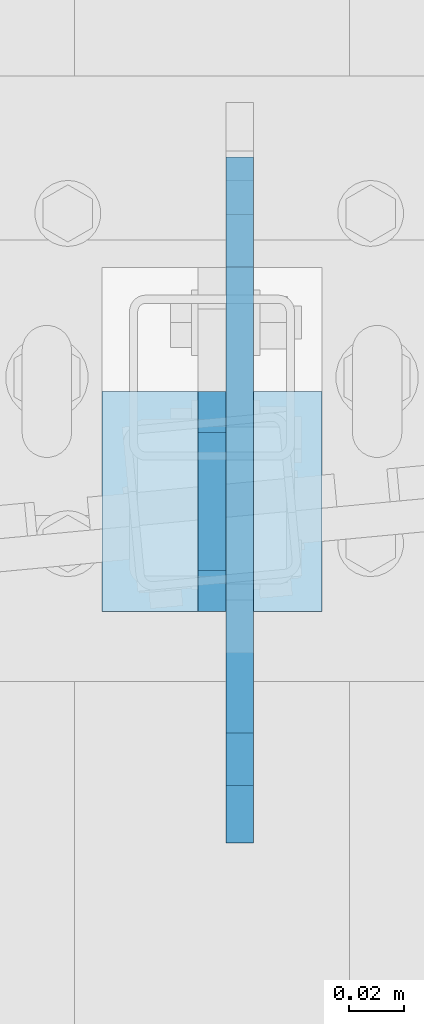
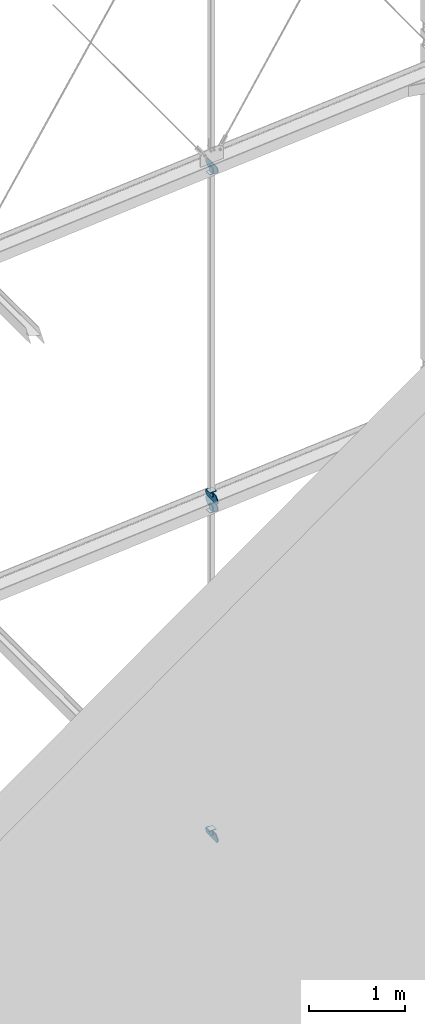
# One storey, part 183 of 271: 12 plates, 5 elements without a shape of their own.
"""IFC2X3 building model written with IfcOpenShell, lengths in millimetres."""

from ifc_helpers import new_model, si_unit, frame, origin_with_axes, place, context, subcontext, project, spatial, polyline, outline, extrude, material, type_object, element, aggregate, save


model = new_model("IFC2X3")

# Units and contexts
model_context = context("Model", 3, precision=1e-05, world=origin_with_axes())
body_context = subcontext(model_context, "Body", "Model", "MODEL_VIEW")
ifc_project = project(units=[si_unit("LENGTHUNIT", "METRE", prefix="MILLI"), si_unit("AREAUNIT", "SQUARE_METRE"), si_unit("VOLUMEUNIT", "CUBIC_METRE"), si_unit("MASSUNIT", "GRAM", prefix="KILO"), si_unit("TIMEUNIT", "SECOND"), si_unit("PLANEANGLEUNIT", "RADIAN"), si_unit("SOLIDANGLEUNIT", "STERADIAN"), si_unit("THERMODYNAMICTEMPERATUREUNIT", "DEGREE_CELSIUS"), si_unit("LUMINOUSINTENSITYUNIT", "LUMEN")], contexts=[model_context])

# Site, building, storey
site_placement = place(None, origin_with_axes())
site = spatial("IfcSite", under=ifc_project, at=site_placement, Name="Undefined", CompositionType="ELEMENT")
building_placement = place(site_placement, origin_with_axes())
building = spatial("IfcBuilding", under=site, at=building_placement, Name="Undefined", CompositionType="ELEMENT")
storey_placement = place(building_placement, origin_with_axes())
storey = spatial("IfcBuildingStorey", under=building, at=storey_placement, Name="Undefined", CompositionType="ELEMENT", Elevation=0.0)

# Assembly, plate
assembly_1_placement = place(storey_placement, origin_with_axes())
assembly_1 = element("IfcElementAssembly", 1, at=assembly_1_placement, inside=storey, AssemblyPlace="NOTDEFINED", PredefinedType="RIGID_FRAME")
ifc_material = material(Name="STEEL/S355JR")
plate_type_1 = type_object("IfcPlateType", Name="BL10*70", PredefinedType="NOTDEFINED")
plate_1_placement = place(assembly_1_placement, frame((9528.37568709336, 4045.32498425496, 5752.94999985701), z_axis=(-1.0, 0.0, 1.38777878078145e-17), x_axis=(0.0, -0.707106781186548, -0.707106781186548)))
plate_1 = element("IfcPlate", 2, at=plate_1_placement, type_object=plate_type_1, material=ifc_material, Name="BLACHA", ObjectType="BL10*70", context=body_context, shape_type="SweptSolid", body=[
    extrude(outline(polyline([(0.0, 0.0), (21.2132034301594, 1.09139364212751e-11), (56.5685424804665, 35.3553390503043), (56.568542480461, 56.5685424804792), (17.6776695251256, 95.4594192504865), (-38.890872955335, 38.8908729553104), (0.0, 0.0)])), frame((0.0, 0.0, -5.0), z_axis=(0.0, 0.0, 1.0), x_axis=(1.0, 0.0, 0.0)), (0.0, 0.0, 1.0), 10.0),
])

# Assembly, plates
assembly_2_placement = place(storey_placement, origin_with_axes())
assembly_2 = element("IfcElementAssembly", 3, at=assembly_2_placement, inside=storey, AssemblyPlace="NOTDEFINED", PredefinedType="RIGID_FRAME")
plate_2_placement = place(assembly_2_placement, frame((9528.37568709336, 3965.32498425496, 14255.749999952), z_axis=(-1.0, 0.0, 1.38777878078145e-17), x_axis=(0.0, 0.707106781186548, 0.707106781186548)))
plate_2 = element("IfcPlate", 4, at=plate_2_placement, type_object=plate_type_1, material=ifc_material, Name="BLACHA", ObjectType="BL10*70", context=body_context, shape_type="SweptSolid", body=[
    extrude(outline(polyline([(0.0, 0.0), (21.2132034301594, 1.09139364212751e-11), (56.5685424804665, 35.3553390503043), (56.568542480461, 56.5685424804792), (17.6776695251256, 95.4594192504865), (-38.890872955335, 38.8908729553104), (0.0, 0.0)])), frame((0.0, 0.0, -5.0), z_axis=(0.0, 0.0, 1.0), x_axis=(1.0, 0.0, 0.0)), (0.0, 0.0, 1.0), 10.0),
])
plate_3_placement = place(assembly_2_placement, frame((9528.37568709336, 4045.32498425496, 10072.949999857), z_axis=(-1.0, 0.0, 1.38777878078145e-17), x_axis=(0.0, -0.707106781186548, -0.707106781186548)))
plate_3 = element("IfcPlate", 5, at=plate_3_placement, type_object=plate_type_1, material=ifc_material, Name="BLACHA", ObjectType="BL10*70", context=body_context, shape_type="SweptSolid", body=[
    extrude(outline(polyline([(0.0, 0.0), (21.2132034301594, 1.09139364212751e-11), (56.5685424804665, 35.3553390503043), (56.568542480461, 56.5685424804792), (17.6776695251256, 95.4594192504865), (-38.890872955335, 38.8908729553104), (0.0, 0.0)])), frame((0.0, 0.0, -5.0), z_axis=(0.0, 0.0, 1.0), x_axis=(1.0, 0.0, 0.0)), (0.0, 0.0, 1.0), 10.0),
])

# Plate
plate_4_placement = place(assembly_1_placement, frame((9528.37568709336, 3965.32498425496, 9935.74999995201), z_axis=(-1.0, 0.0, 1.38777878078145e-17), x_axis=(0.0, 0.707106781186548, 0.707106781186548)))
plate_4 = element("IfcPlate", 6, at=plate_4_placement, type_object=plate_type_1, material=ifc_material, Name="BLACHA", ObjectType="BL10*70", context=body_context, shape_type="SweptSolid", body=[
    extrude(outline(polyline([(0.0, 0.0), (21.2132034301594, 1.09139364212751e-11), (56.5685424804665, 35.3553390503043), (56.568542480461, 56.5685424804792), (17.6776695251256, 95.4594192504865), (-38.890872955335, 38.8908729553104), (0.0, 0.0)])), frame((0.0, 0.0, -5.0), z_axis=(0.0, 0.0, 1.0), x_axis=(1.0, 0.0, 0.0)), (0.0, 0.0, 1.0), 10.0),
])

# Assembly, plate
assembly_3_placement = place(storey_placement, origin_with_axes())
assembly_3 = element("IfcElementAssembly", 7, at=assembly_3_placement, inside=storey, AssemblyPlace="NOTDEFINED", PredefinedType="RIGID_FRAME")
plate_type_2 = type_object("IfcPlateType", Name="BL10*100", PredefinedType="NOTDEFINED")
plate_5_placement = place(assembly_3_placement, frame((9538.37568709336, 3881.28536647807, 5687.94999985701), z_axis=(-1.0, 0.0, 1.38777878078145e-17), x_axis=(0.0, 0.0, 1.0)))
plate_5 = element("IfcPlate", 8, at=plate_5_placement, type_object=plate_type_2, material=ifc_material, Name="BLACHA", ObjectType="BL10*100", context=body_context, shape_type="SweptSolid", body=[
    extrude(outline(polyline([(0.0, 20.7716979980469), (20.7716979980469, 8.17124146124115e-14), (60.0, 4.44089209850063e-13), (100.0, 40.0000000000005), (100.0, 209.16485595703), (60.0, 249.16485595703), (20.7716979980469, 249.16485595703), (0.0, 228.393157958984), (0.0, 20.7716979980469)])), frame((0.0, 0.0, -5.0), z_axis=(0.0, 0.0, 1.0), x_axis=(1.0, 0.0, 0.0)), (0.0, 0.0, 1.0), 10.0),
])
aggregate(assembly_3, [plate_5])

assembly_4_placement = place(storey_placement, origin_with_axes())
assembly_4 = element("IfcElementAssembly", 9, at=assembly_4_placement, inside=storey, AssemblyPlace="NOTDEFINED", PredefinedType="RIGID_FRAME")
plate_6_placement = place(assembly_4_placement, frame((9538.37568709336, 4130.45022579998, 14320.749999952), z_axis=(-1.0, 0.0, 1.38777878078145e-17), x_axis=(0.0, 0.0, -1.0)))
plate_6 = element("IfcPlate", 10, at=plate_6_placement, type_object=plate_type_2, material=ifc_material, Name="BLACHA", ObjectType="BL10*100", context=body_context, shape_type="SweptSolid", body=[
    extrude(outline(polyline([(0.0, 20.7716979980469), (20.7716979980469, 8.17124146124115e-14), (60.0, 4.44089209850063e-13), (100.0, 40.0000000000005), (100.0, 209.16485595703), (60.0, 249.16485595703), (20.7716979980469, 249.16485595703), (0.0, 228.393157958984), (0.0, 20.7716979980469)])), frame((0.0, 0.0, -5.0), z_axis=(0.0, 0.0, 1.0), x_axis=(1.0, 0.0, 0.0)), (0.0, 0.0, 1.0), 10.0),
])
aggregate(assembly_4, [plate_6])

# Assembly, plates
assembly_5_placement = place(storey_placement, origin_with_axes())
assembly_5 = element("IfcElementAssembly", 11, at=assembly_5_placement, inside=storey, AssemblyPlace="NOTDEFINED", PredefinedType="RIGID_FRAME")
plate_7_placement = place(assembly_5_placement, frame((9538.37568709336, 3881.28536647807, 10007.949999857), z_axis=(-1.0, 0.0, 1.38777878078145e-17), x_axis=(0.0, 0.0, 1.0)))
plate_7 = element("IfcPlate", 12, at=plate_7_placement, type_object=plate_type_2, material=ifc_material, Name="BLACHA", ObjectType="BL10*100", context=body_context, shape_type="SweptSolid", body=[
    extrude(outline(polyline([(0.0, 20.7716979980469), (20.7716979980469, 8.17124146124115e-14), (60.0, 4.44089209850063e-13), (100.0, 40.0000000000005), (100.0, 209.16485595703), (60.0, 249.16485595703), (20.7716979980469, 249.16485595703), (0.0, 228.393157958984), (0.0, 20.7716979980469)])), frame((0.0, 0.0, -5.0), z_axis=(0.0, 0.0, 1.0), x_axis=(1.0, 0.0, 0.0)), (0.0, 0.0, 1.0), 10.0),
])
plate_8_placement = place(assembly_5_placement, frame((9538.37568709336, 4130.45022579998, 10000.749999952), z_axis=(-1.0, 0.0, 1.38777878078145e-17), x_axis=(0.0, 0.0, -1.0)))
plate_8 = element("IfcPlate", 13, at=plate_8_placement, type_object=plate_type_2, material=ifc_material, Name="BLACHA", ObjectType="BL10*100", context=body_context, shape_type="SweptSolid", body=[
    extrude(outline(polyline([(0.0, 20.7716979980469), (20.7716979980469, 8.17124146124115e-14), (60.0, 4.44089209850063e-13), (100.0, 40.0000000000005), (100.0, 209.16485595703), (60.0, 249.16485595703), (20.7716979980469, 249.16485595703), (0.0, 228.393157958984), (0.0, 20.7716979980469)])), frame((0.0, 0.0, -5.0), z_axis=(0.0, 0.0, 1.0), x_axis=(1.0, 0.0, 0.0)), (0.0, 0.0, 1.0), 10.0),
])
aggregate(assembly_5, [plate_7, plate_8])

# Plate
plate_type_3 = type_object("IfcPlateType", Name="BL8*80", PredefinedType="NOTDEFINED")
plate_9_placement = place(assembly_1_placement, frame((9568.37568709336, 4045.32498425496, 5811.94999985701), z_axis=(0.0, 0.0, -1.0), x_axis=(0.0, -1.0, 0.0)))
plate_9 = element("IfcPlate", 14, at=plate_9_placement, type_object=plate_type_3, material=ifc_material, Name="BLACHA", ObjectType="BL8*80", context=body_context, shape_type="SweptSolid", body=[
    extrude(outline(polyline([(0.0, 0.0), (80.0, 0.0), (80.0, 80.0), (0.0, 80.0), (0.0, 0.0)])), frame((0.0, 0.0, -4.0), z_axis=(0.0, 0.0, 1.0), x_axis=(1.0, 0.0, 0.0)), (0.0, 0.0, 1.0), 8.0),
])

plate_10_placement = place(assembly_2_placement, frame((9568.37568709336, 3965.32498425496, 14196.749999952), z_axis=(0.0, 0.0, 1.0), x_axis=(0.0, 1.0, 0.0)))
plate_10 = element("IfcPlate", 15, at=plate_10_placement, type_object=plate_type_3, material=ifc_material, Name="BLACHA", ObjectType="BL8*80", context=body_context, shape_type="SweptSolid", body=[
    extrude(outline(polyline([(0.0, 0.0), (80.0, 0.0), (80.0, 80.0), (0.0, 80.0), (0.0, 0.0)])), frame((0.0, 0.0, -4.0), z_axis=(0.0, 0.0, 1.0), x_axis=(1.0, 0.0, 0.0)), (0.0, 0.0, 1.0), 8.0),
])

plate_11_placement = place(assembly_2_placement, frame((9568.37568709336, 4045.32498425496, 10131.949999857), z_axis=(0.0, 0.0, -1.0), x_axis=(0.0, -1.0, 0.0)))
plate_11 = element("IfcPlate", 16, at=plate_11_placement, type_object=plate_type_3, material=ifc_material, Name="BLACHA", ObjectType="BL8*80", context=body_context, shape_type="SweptSolid", body=[
    extrude(outline(polyline([(0.0, 0.0), (80.0, 0.0), (80.0, 80.0), (0.0, 80.0), (0.0, 0.0)])), frame((0.0, 0.0, -4.0), z_axis=(0.0, 0.0, 1.0), x_axis=(1.0, 0.0, 0.0)), (0.0, 0.0, 1.0), 8.0),
])

aggregate(assembly_2, [plate_10, plate_2, plate_11, plate_3])

plate_12_placement = place(assembly_1_placement, frame((9568.37568709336, 3965.32498425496, 9876.74999995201), z_axis=(0.0, 0.0, 1.0), x_axis=(0.0, 1.0, 0.0)))
plate_12 = element("IfcPlate", 17, at=plate_12_placement, type_object=plate_type_3, material=ifc_material, Name="BLACHA", ObjectType="BL8*80", context=body_context, shape_type="SweptSolid", body=[
    extrude(outline(polyline([(0.0, 0.0), (80.0, 0.0), (80.0, 80.0), (0.0, 80.0), (0.0, 0.0)])), frame((0.0, 0.0, -4.0), z_axis=(0.0, 0.0, 1.0), x_axis=(1.0, 0.0, 0.0)), (0.0, 0.0, 1.0), 8.0),
])

aggregate(assembly_1, [plate_9, plate_1, plate_12, plate_4])

save(model, "model.ifc")
